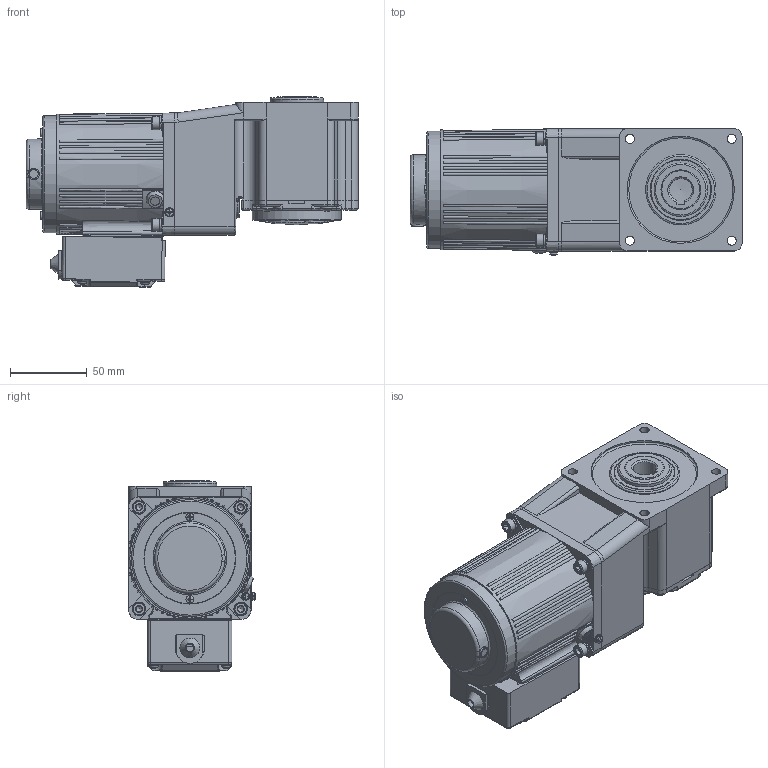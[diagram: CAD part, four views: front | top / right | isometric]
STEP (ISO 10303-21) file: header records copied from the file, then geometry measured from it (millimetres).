
FILE_DESCRIPTION(/* description */ (''),/* implementation_level */ '2;1');
FILE_NAME(/* name */ '80+中空直角-调速-25-40W 新版长款接线盒.stp',/* time_stamp */ '2025-03-30T13:24:05+08:00',/* author */ (''),/* organization */ (''),/* preprocessor_version */ 'ST-DEVELOPER v18.102',/* originating_system */ 'SIEMENS PLM Software NX 2027',/* authorisation */ '');
FILE_SCHEMA (('AP203_CONFIGURATION_CONTROLLED_3D_DESIGN_OF_MECHANICAL_PARTS_AND_ASSEMBLIES_MIM_LF { 1 0 10303 403 2 1 2}'));
Products named in the file (1): 80+中空直角-调速-25-40W 新版_
stp_objects
Bounding box: 217 x 82.78 x 124.34 mm (x, y, z)
Volume: 1157358.8 mm3; surface area: 160935.4 mm2
Topology: 17 solids, 17 shells, 1681 faces, 4198 edges, 2621 vertices
Faces by surface type: plane 754, cylinder 497, torus 143, bspline 133, cone 116, sphere 38
Full cylindrical faces by diameter (mm): 2.2 x2, 2.5 x2, 2.6 x1, 2.7 x1, 2.9 x4, 3.2 x1, 3.5 x4, 4.2 x5, 4.4 x1, 4.8 x1, 4.826 x4, 5 x9, 5.1 x3, 5.3 x4, 5.6 x4, 5.8 x1, 6 x12, 7 x1, 7.4 x1, 8 x5, 8.2 x1, 8.5 x4, 9 x4, 10 x2, 10.5 x1, 19 x1, 25 x1, 26 x3, 35 x1, 40 x2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
Entity records: 55982 total; most frequent: CARTESIAN_POINT 18183, ORIENTED_EDGE 7762, DIRECTION 7466, EDGE_CURVE 3881, AXIS2_PLACEMENT_3D 2888, VERTEX_POINT 2534, EDGE_LOOP 2016, LINE 1690
